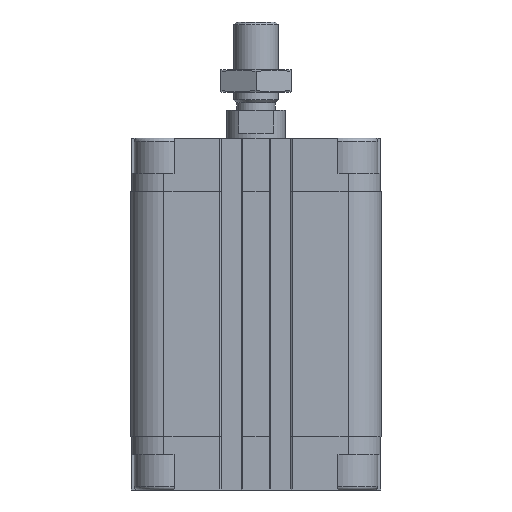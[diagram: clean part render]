
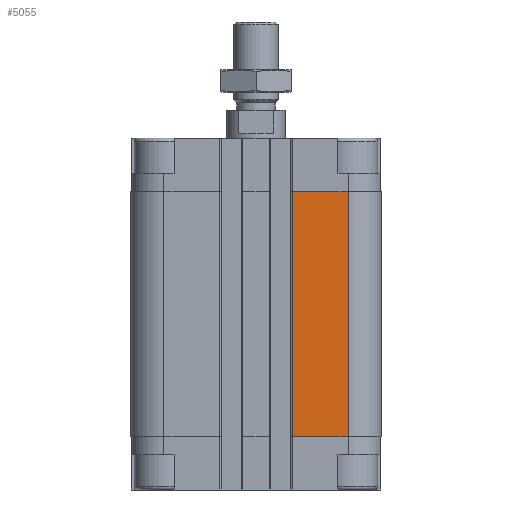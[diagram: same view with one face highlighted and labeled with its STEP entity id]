
A CAD part, front view. The second image highlights one B-rep face of the part: STEP entity #5055.
In plain terms, the highlighted planar face has unit normal (0, -1, 0).
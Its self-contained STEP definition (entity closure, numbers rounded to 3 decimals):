
#79 = EDGE_CURVE ( 'NONE', #4034, #2163, #16414, .T. ) ;
#1070 = VECTOR ( 'NONE', #5822, 1000. ) ;
#1586 = DIRECTION ( 'NONE',  ( 1., 0., 0. ) ) ;
#2049 = EDGE_CURVE ( 'NONE', #4034, #16129, #17310, .T. ) ;
#2152 = PLANE ( 'NONE',  #22512 ) ;
#2163 = VERTEX_POINT ( 'NONE', #9060 ) ;
#2404 = DIRECTION ( 'NONE',  ( 1., 0., 0. ) ) ;
#2618 = EDGE_LOOP ( 'NONE', ( #9993, #18277, #6665, #4435 ) ) ;
#3482 = EDGE_CURVE ( 'NONE', #2163, #17427, #6011, .T. ) ;
#4034 = VERTEX_POINT ( 'NONE', #6772 ) ;
#4435 = ORIENTED_EDGE ( 'NONE', *, *, #8633, .T. ) ;
#5055 = ADVANCED_FACE ( 'NONE', ( #14495 ), #2152, .T. ) ;
#5574 = VECTOR ( 'NONE', #1586, 1000. ) ;
#5653 = DIRECTION ( 'NONE',  ( 0., -1., 0. ) ) ;
#5822 = DIRECTION ( 'NONE',  ( 0., 0., 1. ) ) ;
#6011 = LINE ( 'NONE', #7772, #10058 ) ;
#6665 = ORIENTED_EDGE ( 'NONE', *, *, #2049, .T. ) ;
#6714 = CARTESIAN_POINT ( 'NONE',  ( 9.85, -34., -81. ) ) ;
#6772 = CARTESIAN_POINT ( 'NONE',  ( 9.85, -34., -81. ) ) ;
#6835 = CARTESIAN_POINT ( 'NONE',  ( 25., -34., -81. ) ) ;
#7728 = CARTESIAN_POINT ( 'NONE',  ( 25., -34., -81. ) ) ;
#7772 = CARTESIAN_POINT ( 'NONE',  ( 9.85, -34., -14.5 ) ) ;
#8633 = EDGE_CURVE ( 'NONE', #16129, #17427, #22757, .T. ) ;
#8662 = CARTESIAN_POINT ( 'NONE',  ( 25., -34., -14.5 ) ) ;
#9060 = CARTESIAN_POINT ( 'NONE',  ( 9.85, -34., -14.5 ) ) ;
#9277 = CARTESIAN_POINT ( 'NONE',  ( 9.85, -34., -81. ) ) ;
#9993 = ORIENTED_EDGE ( 'NONE', *, *, #3482, .F. ) ;
#10058 = VECTOR ( 'NONE', #2404, 1000. ) ;
#11342 = DIRECTION ( 'NONE',  ( -1., 0., 0. ) ) ;
#14495 = FACE_OUTER_BOUND ( 'NONE', #2618, .T. ) ;
#16129 = VERTEX_POINT ( 'NONE', #7728 ) ;
#16414 = LINE ( 'NONE', #18062, #1070 ) ;
#17310 = LINE ( 'NONE', #6714, #5574 ) ;
#17427 = VERTEX_POINT ( 'NONE', #8662 ) ;
#18062 = CARTESIAN_POINT ( 'NONE',  ( 9.85, -34., -81. ) ) ;
#18277 = ORIENTED_EDGE ( 'NONE', *, *, #79, .F. ) ;
#20169 = VECTOR ( 'NONE', #21011, 1000. ) ;
#21011 = DIRECTION ( 'NONE',  ( 0., 0., 1. ) ) ;
#22512 = AXIS2_PLACEMENT_3D ( 'NONE', #9277, #5653, #11342 ) ;
#22757 = LINE ( 'NONE', #6835, #20169 ) ;
